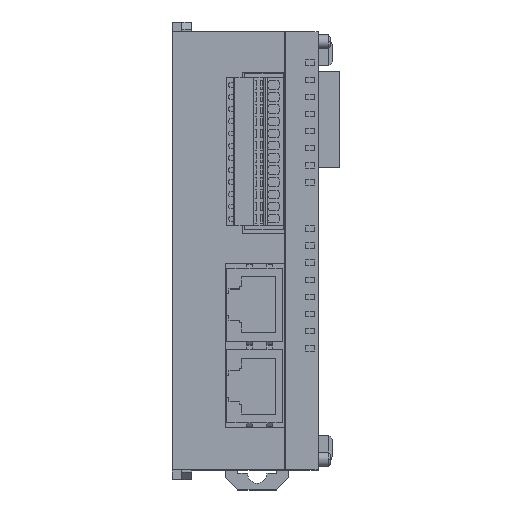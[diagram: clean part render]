
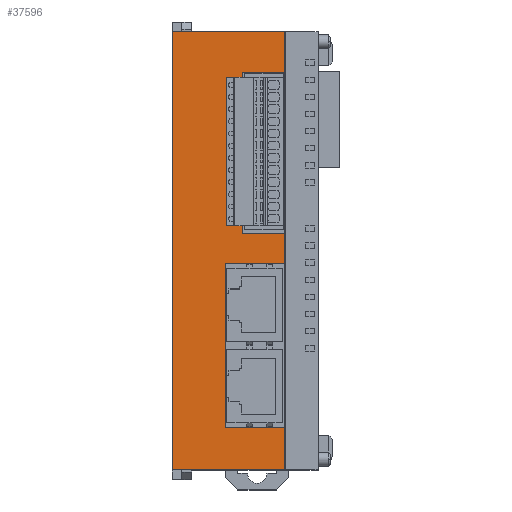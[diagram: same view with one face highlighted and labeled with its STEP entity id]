
A CAD part, top view. The second image highlights one B-rep face of the part: STEP entity #37596.
In plain terms, the highlighted planar face has unit normal (0, 0, 1).
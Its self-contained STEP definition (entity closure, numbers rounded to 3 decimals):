
#22347 = DIRECTION ( 'NONE',  ( 0., -1., 0. ) ) ;
#22348 = VECTOR ( 'NONE', #22347, 1000. ) ;
#22349 = CARTESIAN_POINT ( 'NONE',  ( 8.2, 45., 60. ) ) ;
#22350 = LINE ( 'NONE', #22349, #22348 ) ;
#22351 = CARTESIAN_POINT ( 'NONE',  ( 8.2, -36.3, 60. ) ) ;
#22517 = CARTESIAN_POINT ( 'NONE',  ( 8.2, -45., 60. ) ) ;
#22672 = CARTESIAN_POINT ( 'NONE',  ( 8.2, 45., 60. ) ) ;
#22706 = DIRECTION ( 'NONE',  ( 0., -1., 0. ) ) ;
#22707 = VECTOR ( 'NONE', #22706, 1000. ) ;
#22708 = CARTESIAN_POINT ( 'NONE',  ( 8.2, 45., 60. ) ) ;
#22709 = LINE ( 'NONE', #22708, #22707 ) ;
#22805 = CARTESIAN_POINT ( 'NONE',  ( 8.2, 36.5, 60. ) ) ;
#26366 = DIRECTION ( 'NONE',  ( 1., 0., 0. ) ) ;
#26367 = VECTOR ( 'NONE', #26366, 1000. ) ;
#26368 = CARTESIAN_POINT ( 'NONE',  ( -15., -45., 60. ) ) ;
#26369 = LINE ( 'NONE', #26368, #26367 ) ;
#26424 = CARTESIAN_POINT ( 'NONE',  ( -15., -45., 60. ) ) ;
#30853 = CARTESIAN_POINT ( 'NONE',  ( -15., 45., 60. ) ) ;
#30967 = DIRECTION ( 'NONE',  ( -1., 0., 0. ) ) ;
#30968 = VECTOR ( 'NONE', #30967, 1000. ) ;
#30969 = CARTESIAN_POINT ( 'NONE',  ( -15., 45., 60. ) ) ;
#30970 = LINE ( 'NONE', #30969, #30968 ) ;
#36825 = EDGE_CURVE ( 'NONE', #48181, #46510, #56175, .T. ) ;
#37575 = ORIENTED_EDGE ( 'NONE', *, *, #37576, .F. ) ;
#37576 = EDGE_CURVE ( 'NONE', #37577, #37603, #57813, .T. ) ;
#37577 = VERTEX_POINT ( 'NONE', #57809 ) ;
#37578 = ORIENTED_EDGE ( 'NONE', *, *, #37579, .F. ) ;
#37579 = EDGE_CURVE ( 'NONE', #37580, #37577, #57808, .T. ) ;
#37580 = VERTEX_POINT ( 'NONE', #57870 ) ;
#37581 = ORIENTED_EDGE ( 'NONE', *, *, #37582, .F. ) ;
#37582 = EDGE_CURVE ( 'NONE', #37583, #37580, #57869, .T. ) ;
#37583 = VERTEX_POINT ( 'NONE', #57865 ) ;
#37584 = ORIENTED_EDGE ( 'NONE', *, *, #37585, .F. ) ;
#37585 = EDGE_CURVE ( 'NONE', #37586, #37583, #57864, .T. ) ;
#37586 = VERTEX_POINT ( 'NONE', #57860 ) ;
#37587 = ORIENTED_EDGE ( 'NONE', *, *, #37588, .F. ) ;
#37588 = EDGE_CURVE ( 'NONE', #44932, #37586, #57859, .T. ) ;
#37589 = ORIENTED_EDGE ( 'NONE', *, *, #44899, .F. ) ;
#37596 = ADVANCED_FACE ( 'NONE', ( #57846 ), #57889, .T. ) ;
#37597 = EDGE_LOOP ( 'NONE', ( #37598, #37601, #37575, #37578, #37581, #37584, #37587, #37589, #37654, #37656, #37657, #37658 ) ) ;
#37598 = ORIENTED_EDGE ( 'NONE', *, *, #37599, .F. ) ;
#37599 = EDGE_CURVE ( 'NONE', #37600, #44783, #57888, .T. ) ;
#37600 = VERTEX_POINT ( 'NONE', #57880 ) ;
#37601 = ORIENTED_EDGE ( 'NONE', *, *, #37602, .F. ) ;
#37602 = EDGE_CURVE ( 'NONE', #37603, #37600, #57879, .T. ) ;
#37603 = VERTEX_POINT ( 'NONE', #57875 ) ;
#37654 = ORIENTED_EDGE ( 'NONE', *, *, #48254, .T. ) ;
#37656 = ORIENTED_EDGE ( 'NONE', *, *, #36825, .T. ) ;
#37657 = ORIENTED_EDGE ( 'NONE', *, *, #46509, .T. ) ;
#37658 = ORIENTED_EDGE ( 'NONE', *, *, #44787, .F. ) ;
#44783 = VERTEX_POINT ( 'NONE', #22351 ) ;
#44787 = EDGE_CURVE ( 'NONE', #44783, #44818, #22350, .T. ) ;
#44818 = VERTEX_POINT ( 'NONE', #22517 ) ;
#44895 = VERTEX_POINT ( 'NONE', #22672 ) ;
#44899 = EDGE_CURVE ( 'NONE', #44895, #44932, #22709, .T. ) ;
#44932 = VERTEX_POINT ( 'NONE', #22805 ) ;
#46509 = EDGE_CURVE ( 'NONE', #46510, #44818, #26369, .T. ) ;
#46510 = VERTEX_POINT ( 'NONE', #26424 ) ;
#48181 = VERTEX_POINT ( 'NONE', #30853 ) ;
#48254 = EDGE_CURVE ( 'NONE', #44895, #48181, #30970, .T. ) ;
#56172 = DIRECTION ( 'NONE',  ( 0., -1., 0. ) ) ;
#56173 = VECTOR ( 'NONE', #56172, 1000. ) ;
#56174 = CARTESIAN_POINT ( 'NONE',  ( -15., 45., 60. ) ) ;
#56175 = LINE ( 'NONE', #56174, #56173 ) ;
#57805 = DIRECTION ( 'NONE',  ( 0., -1., 0. ) ) ;
#57806 = VECTOR ( 'NONE', #57805, 1000. ) ;
#57807 = CARTESIAN_POINT ( 'NONE',  ( 8.2, 45., 60. ) ) ;
#57808 = LINE ( 'NONE', #57807, #57806 ) ;
#57809 = CARTESIAN_POINT ( 'NONE',  ( 8.2, -2.7, 60. ) ) ;
#57810 = DIRECTION ( 'NONE',  ( -1., 0., 0. ) ) ;
#57811 = VECTOR ( 'NONE', #57810, 1000. ) ;
#57812 = CARTESIAN_POINT ( 'NONE',  ( 8.2, -2.7, 60. ) ) ;
#57813 = LINE ( 'NONE', #57812, #57811 ) ;
#57846 = FACE_OUTER_BOUND ( 'NONE', #37597, .T. ) ;
#57856 = DIRECTION ( 'NONE',  ( -1., 0., 0. ) ) ;
#57857 = VECTOR ( 'NONE', #57856, 1000. ) ;
#57858 = CARTESIAN_POINT ( 'NONE',  ( 8.2, 36.5, 60. ) ) ;
#57859 = LINE ( 'NONE', #57858, #57857 ) ;
#57860 = CARTESIAN_POINT ( 'NONE',  ( -0.5, 36.5, 60. ) ) ;
#57861 = DIRECTION ( 'NONE',  ( 0., -1., 0. ) ) ;
#57862 = VECTOR ( 'NONE', #57861, 1000. ) ;
#57863 = CARTESIAN_POINT ( 'NONE',  ( -0.5, 36.5, 60. ) ) ;
#57864 = LINE ( 'NONE', #57863, #57862 ) ;
#57865 = CARTESIAN_POINT ( 'NONE',  ( -0.5, 3.5, 60. ) ) ;
#57866 = DIRECTION ( 'NONE',  ( 1., 0., 0. ) ) ;
#57867 = VECTOR ( 'NONE', #57866, 1000. ) ;
#57868 = CARTESIAN_POINT ( 'NONE',  ( 8.2, 3.5, 60. ) ) ;
#57869 = LINE ( 'NONE', #57868, #57867 ) ;
#57870 = CARTESIAN_POINT ( 'NONE',  ( 8.2, 3.5, 60. ) ) ;
#57875 = CARTESIAN_POINT ( 'NONE',  ( -4.1, -2.7, 60. ) ) ;
#57876 = DIRECTION ( 'NONE',  ( 0., -1., 0. ) ) ;
#57877 = VECTOR ( 'NONE', #57876, 1000. ) ;
#57878 = CARTESIAN_POINT ( 'NONE',  ( -4.1, -2.7, 60. ) ) ;
#57879 = LINE ( 'NONE', #57878, #57877 ) ;
#57880 = CARTESIAN_POINT ( 'NONE',  ( -4.1, -36.3, 60. ) ) ;
#57881 = DIRECTION ( 'NONE',  ( 1., 0., 0. ) ) ;
#57882 = VECTOR ( 'NONE', #57881, 1000. ) ;
#57883 = CARTESIAN_POINT ( 'NONE',  ( 8.2, -36.3, 60. ) ) ;
#57884 = DIRECTION ( 'NONE',  ( 1., 0., 0. ) ) ;
#57885 = DIRECTION ( 'NONE',  ( 0., 0., 1. ) ) ;
#57886 = CARTESIAN_POINT ( 'NONE',  ( -15., -45., 60. ) ) ;
#57887 = AXIS2_PLACEMENT_3D ( 'NONE', #57886, #57885, #57884 ) ;
#57888 = LINE ( 'NONE', #57883, #57882 ) ;
#57889 = PLANE ( 'NONE',  #57887 ) ;
